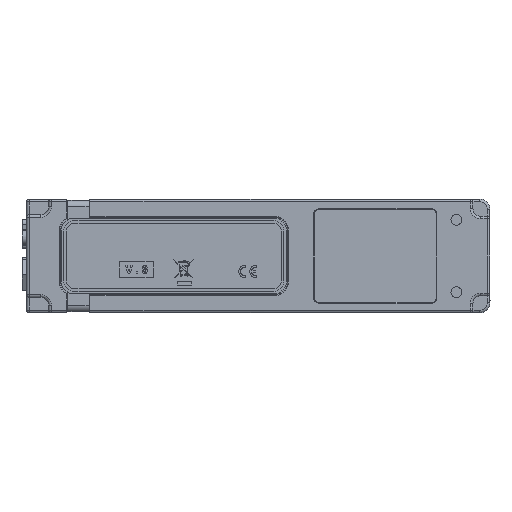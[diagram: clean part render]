
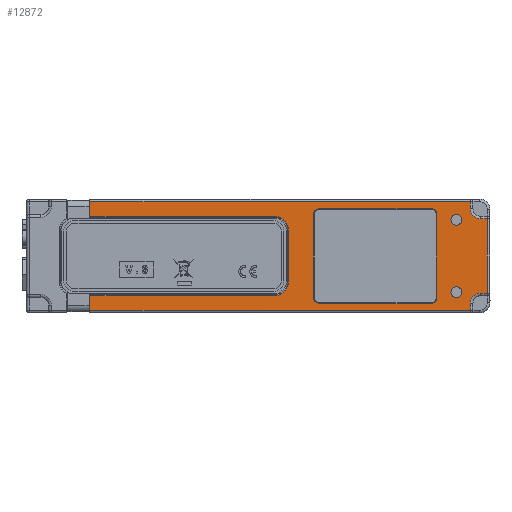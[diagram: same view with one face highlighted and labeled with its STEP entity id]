
A CAD part, left-side view. The second image highlights one B-rep face of the part: STEP entity #12872.
In plain terms, the highlighted planar face has unit normal (-1, 0, 0).
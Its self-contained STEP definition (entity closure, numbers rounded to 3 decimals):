
#12872=ADVANCED_FACE('',(#14862,#14863,#14864,#14865),#13655,.T.);
#13655=PLANE('',#49395);
#14265=CIRCLE('',#49309,1.8);
#14268=CIRCLE('',#49314,1.8);
#14271=CIRCLE('',#49319,1.8);
#14273=CIRCLE('',#49323,1.8);
#14277=CIRCLE('',#49329,4.);
#14280=CIRCLE('',#49335,4.);
#14284=CIRCLE('',#49340,5.3);
#14287=CIRCLE('',#49345,5.3);
#14288=CIRCLE('',#49347,2.1);
#14289=CIRCLE('',#49349,2.1);
#14862=FACE_BOUND('',#16028,.T.);
#14863=FACE_BOUND('',#16029,.T.);
#14864=FACE_BOUND('',#16030,.T.);
#14865=FACE_BOUND('',#16031,.T.);
#16028=EDGE_LOOP('',(#28688,#28689,#28690,#28691,#28692,#28693,#28694,#28695));
#16029=EDGE_LOOP('',(#28696,#28697,#28698,#28699,#28700,#28701,#28702,#28703,
#28704,#28705,#28706,#28707,#28708,#28709,#28710,#28711));
#16030=EDGE_LOOP('',(#28712));
#16031=EDGE_LOOP('',(#28713));
#28688=ORIENTED_EDGE('',*,*,#42476,.T.);
#28689=ORIENTED_EDGE('',*,*,#42478,.T.);
#28690=ORIENTED_EDGE('',*,*,#42480,.T.);
#28691=ORIENTED_EDGE('',*,*,#42482,.T.);
#28692=ORIENTED_EDGE('',*,*,#42484,.T.);
#28693=ORIENTED_EDGE('',*,*,#42486,.T.);
#28694=ORIENTED_EDGE('',*,*,#42488,.T.);
#28695=ORIENTED_EDGE('',*,*,#42489,.T.);
#28696=ORIENTED_EDGE('',*,*,#42547,.T.);
#28697=ORIENTED_EDGE('',*,*,#42582,.T.);
#28698=ORIENTED_EDGE('',*,*,#42583,.T.);
#28699=ORIENTED_EDGE('',*,*,#42491,.T.);
#28700=ORIENTED_EDGE('',*,*,#42495,.T.);
#28701=ORIENTED_EDGE('',*,*,#42496,.T.);
#28702=ORIENTED_EDGE('',*,*,#42531,.T.);
#28703=ORIENTED_EDGE('',*,*,#42498,.T.);
#28704=ORIENTED_EDGE('',*,*,#42501,.T.);
#28705=ORIENTED_EDGE('',*,*,#42513,.T.);
#28706=ORIENTED_EDGE('',*,*,#42584,.T.);
#28707=ORIENTED_EDGE('',*,*,#42585,.T.);
#28708=ORIENTED_EDGE('',*,*,#42581,.T.);
#28709=ORIENTED_EDGE('',*,*,#42505,.T.);
#28710=ORIENTED_EDGE('',*,*,#42507,.T.);
#28711=ORIENTED_EDGE('',*,*,#42509,.T.);
#28712=ORIENTED_EDGE('',*,*,#42510,.T.);
#28713=ORIENTED_EDGE('',*,*,#42511,.T.);
#35859=VERTEX_POINT('',#86743);
#35862=VERTEX_POINT('',#86750);
#35892=VERTEX_POINT('',#86827);
#35893=VERTEX_POINT('',#86829);
#35894=VERTEX_POINT('',#86833);
#35895=VERTEX_POINT('',#86837);
#35896=VERTEX_POINT('',#86841);
#35897=VERTEX_POINT('',#86845);
#35898=VERTEX_POINT('',#86849);
#35899=VERTEX_POINT('',#86853);
#35900=VERTEX_POINT('',#86859);
#35901=VERTEX_POINT('',#86861);
#35903=VERTEX_POINT('',#86867);
#35905=VERTEX_POINT('',#86874);
#35907=VERTEX_POINT('',#86880);
#35908=VERTEX_POINT('',#86885);
#35909=VERTEX_POINT('',#86887);
#35910=VERTEX_POINT('',#86891);
#35911=VERTEX_POINT('',#86895);
#35912=VERTEX_POINT('',#86899);
#35913=VERTEX_POINT('',#86902);
#35915=VERTEX_POINT('',#86906);
#35935=VERTEX_POINT('',#86987);
#35956=VERTEX_POINT('',#87055);
#35957=VERTEX_POINT('',#87059);
#35958=VERTEX_POINT('',#87062);
#42476=EDGE_CURVE('',#35892,#35893,#45170,.T.);
#42478=EDGE_CURVE('',#35893,#35894,#14265,.T.);
#42480=EDGE_CURVE('',#35894,#35895,#45171,.T.);
#42482=EDGE_CURVE('',#35895,#35896,#14268,.T.);
#42484=EDGE_CURVE('',#35896,#35897,#45172,.T.);
#42486=EDGE_CURVE('',#35897,#35898,#14271,.T.);
#42488=EDGE_CURVE('',#35898,#35899,#45173,.T.);
#42489=EDGE_CURVE('',#35899,#35892,#14273,.T.);
#42491=EDGE_CURVE('',#35901,#35900,#45174,.T.);
#42495=EDGE_CURVE('',#35900,#35903,#14277,.T.);
#42496=EDGE_CURVE('',#35903,#35862,#45176,.T.);
#42498=EDGE_CURVE('',#35859,#35905,#45177,.T.);
#42501=EDGE_CURVE('',#35905,#35907,#14280,.T.);
#42505=EDGE_CURVE('',#35908,#35909,#14284,.T.);
#42507=EDGE_CURVE('',#35909,#35910,#45179,.T.);
#42509=EDGE_CURVE('',#35910,#35911,#14287,.T.);
#42510=EDGE_CURVE('',#35912,#35912,#14288,.T.);
#42511=EDGE_CURVE('',#35913,#35913,#14289,.T.);
#42513=EDGE_CURVE('',#35907,#35915,#45180,.T.);
#42531=EDGE_CURVE('',#35862,#35859,#45193,.T.);
#42547=EDGE_CURVE('',#35911,#35935,#45204,.T.);
#42581=EDGE_CURVE('',#35956,#35908,#45230,.T.);
#42582=EDGE_CURVE('',#35935,#35957,#45231,.T.);
#42583=EDGE_CURVE('',#35957,#35901,#45232,.T.);
#42584=EDGE_CURVE('',#35915,#35958,#45233,.T.);
#42585=EDGE_CURVE('',#35958,#35956,#45234,.T.);
#45170=LINE('',#86830,#47708);
#45171=LINE('',#86838,#47709);
#45172=LINE('',#86846,#47710);
#45173=LINE('',#86854,#47711);
#45174=LINE('',#86860,#47712);
#45176=LINE('',#86870,#47714);
#45177=LINE('',#86875,#47715);
#45179=LINE('',#86892,#47717);
#45180=LINE('',#86907,#47718);
#45193=LINE('',#86957,#47731);
#45204=LINE('',#86988,#47742);
#45230=LINE('',#87056,#47768);
#45231=LINE('',#87058,#47769);
#45232=LINE('',#87060,#47770);
#45233=LINE('',#87061,#47771);
#45234=LINE('',#87063,#47772);
#47708=VECTOR('',#54227,1.);
#47709=VECTOR('',#54238,1.);
#47710=VECTOR('',#54249,1.);
#47711=VECTOR('',#54260,1.);
#47712=VECTOR('',#54269,1.);
#47714=VECTOR('',#54281,1.);
#47715=VECTOR('',#54286,1.);
#47717=VECTOR('',#54308,1.);
#47718=VECTOR('',#54327,1.);
#47731=VECTOR('',#54364,1.);
#47742=VECTOR('',#54393,1.);
#47768=VECTOR('',#54461,1.);
#47769=VECTOR('',#54464,1.);
#47770=VECTOR('',#54465,1.);
#47771=VECTOR('',#54466,1.);
#47772=VECTOR('',#54467,1.);
#49309=AXIS2_PLACEMENT_3D('',#86834,#54232,#54233);
#49314=AXIS2_PLACEMENT_3D('',#86842,#54243,#54244);
#49319=AXIS2_PLACEMENT_3D('',#86850,#54254,#54255);
#49323=AXIS2_PLACEMENT_3D('',#86856,#54263,#54264);
#49329=AXIS2_PLACEMENT_3D('',#86868,#54277,#54278);
#49335=AXIS2_PLACEMENT_3D('',#86881,#54292,#54293);
#49340=AXIS2_PLACEMENT_3D('',#86888,#54302,#54303);
#49345=AXIS2_PLACEMENT_3D('',#86896,#54313,#54314);
#49347=AXIS2_PLACEMENT_3D('',#86898,#54317,#54318);
#49349=AXIS2_PLACEMENT_3D('',#86901,#54321,#54322);
#49395=AXIS2_PLACEMENT_3D('',#87064,#54468,#54469);
#54227=DIRECTION('',(0.,0.,1.));
#54232=DIRECTION('',(1.,0.,0.));
#54233=DIRECTION('',(0.,-1.,0.));
#54238=DIRECTION('',(0.,-1.,0.));
#54243=DIRECTION('',(1.,0.,0.));
#54244=DIRECTION('',(0.,-1.,0.));
#54249=DIRECTION('',(0.,0.,-1.));
#54254=DIRECTION('',(1.,0.,0.));
#54255=DIRECTION('',(0.,-1.,0.));
#54260=DIRECTION('',(0.,1.,0.));
#54263=DIRECTION('',(1.,0.,0.));
#54264=DIRECTION('',(0.,-1.,0.));
#54269=DIRECTION('',(0.,0.,1.));
#54277=DIRECTION('',(1.,0.,0.));
#54278=DIRECTION('',(0.,-1.,0.));
#54281=DIRECTION('',(0.,-1.,0.));
#54286=DIRECTION('',(0.,1.,0.));
#54292=DIRECTION('',(1.,0.,0.));
#54293=DIRECTION('',(0.,-1.,0.));
#54302=DIRECTION('',(1.,0.,0.));
#54303=DIRECTION('',(0.,-1.,0.));
#54308=DIRECTION('',(0.,0.,-1.));
#54313=DIRECTION('',(1.,0.,0.));
#54314=DIRECTION('',(0.,-1.,0.));
#54317=DIRECTION('',(1.,0.,0.));
#54318=DIRECTION('',(0.,1.,0.));
#54321=DIRECTION('',(1.,0.,0.));
#54322=DIRECTION('',(0.,1.,0.));
#54327=DIRECTION('',(0.,0.,1.));
#54364=DIRECTION('',(0.,0.,1.));
#54393=DIRECTION('',(0.,1.,0.));
#54461=DIRECTION('',(0.,-1.,0.));
#54464=DIRECTION('',(0.,0.,-1.));
#54465=DIRECTION('',(0.,-1.,0.));
#54466=DIRECTION('',(0.,1.,0.));
#54467=DIRECTION('',(0.,0.,-1.));
#54468=DIRECTION('',(-1.,0.,0.));
#54469=DIRECTION('',(0.,-1.,0.));
#86743=CARTESIAN_POINT('',(-292.,1.008,36.443));
#86750=CARTESIAN_POINT('',(-292.,1.008,7.643));
#86827=CARTESIAN_POINT('',(-292.,68.158,5.643));
#86829=CARTESIAN_POINT('',(-292.,68.158,38.443));
#86830=CARTESIAN_POINT('',(-292.,68.158,38.443));
#86833=CARTESIAN_POINT('',(-292.,66.358,40.243));
#86834=CARTESIAN_POINT('',(-292.,66.358,38.443));
#86837=CARTESIAN_POINT('',(-292.,22.358,40.243));
#86838=CARTESIAN_POINT('',(-292.,22.358,40.243));
#86841=CARTESIAN_POINT('',(-292.,20.558,38.443));
#86842=CARTESIAN_POINT('',(-292.,22.358,38.443));
#86845=CARTESIAN_POINT('',(-292.,20.558,5.643));
#86846=CARTESIAN_POINT('',(-292.,20.558,5.643));
#86849=CARTESIAN_POINT('',(-292.,22.358,3.843));
#86850=CARTESIAN_POINT('',(-292.,22.358,5.643));
#86853=CARTESIAN_POINT('',(-292.,66.358,3.843));
#86854=CARTESIAN_POINT('',(-292.,66.358,3.843));
#86856=CARTESIAN_POINT('',(-292.,66.358,5.643));
#86859=CARTESIAN_POINT('',(-292.,7.608,3.643));
#86860=CARTESIAN_POINT('',(-292.,7.608,3.643));
#86861=CARTESIAN_POINT('',(-292.,7.608,1.043));
#86867=CARTESIAN_POINT('',(-292.,3.608,7.643));
#86868=CARTESIAN_POINT('',(-292.,3.608,3.643));
#86870=CARTESIAN_POINT('',(-292.,0.008,7.643));
#86874=CARTESIAN_POINT('',(-292.,3.608,36.443));
#86875=CARTESIAN_POINT('',(-292.,3.608,36.443));
#86880=CARTESIAN_POINT('',(-292.,7.608,40.443));
#86881=CARTESIAN_POINT('',(-292.,3.608,40.443));
#86885=CARTESIAN_POINT('',(-292.,83.358,37.343));
#86887=CARTESIAN_POINT('',(-292.,78.058,32.043));
#86888=CARTESIAN_POINT('',(-292.,83.358,32.043));
#86891=CARTESIAN_POINT('',(-292.,78.058,12.043));
#86892=CARTESIAN_POINT('',(-292.,78.058,12.043));
#86895=CARTESIAN_POINT('',(-292.,83.358,6.743));
#86896=CARTESIAN_POINT('',(-292.,83.358,12.043));
#86898=CARTESIAN_POINT('',(-292.,13.008,36.043));
#86899=CARTESIAN_POINT('',(-292.,15.108,36.043));
#86901=CARTESIAN_POINT('',(-292.,13.008,8.043));
#86902=CARTESIAN_POINT('',(-292.,15.108,8.043));
#86906=CARTESIAN_POINT('',(-292.,7.608,43.043));
#86907=CARTESIAN_POINT('',(-292.,7.608,44.043));
#86957=CARTESIAN_POINT('',(-292.,1.008,22.043));
#86987=CARTESIAN_POINT('',(-292.,154.808,6.743));
#86988=CARTESIAN_POINT('',(-292.,155.108,6.743));
#87055=CARTESIAN_POINT('',(-292.,154.808,37.343));
#87056=CARTESIAN_POINT('',(-292.,83.358,37.343));
#87058=CARTESIAN_POINT('',(-292.,154.808,1.043));
#87059=CARTESIAN_POINT('',(-292.,154.808,1.043));
#87060=CARTESIAN_POINT('',(-292.,89.683,1.043));
#87061=CARTESIAN_POINT('',(-292.,89.683,43.043));
#87062=CARTESIAN_POINT('',(-292.,154.808,43.043));
#87063=CARTESIAN_POINT('',(-292.,154.808,37.043));
#87064=CARTESIAN_POINT('',(-292.,89.683,22.043));
